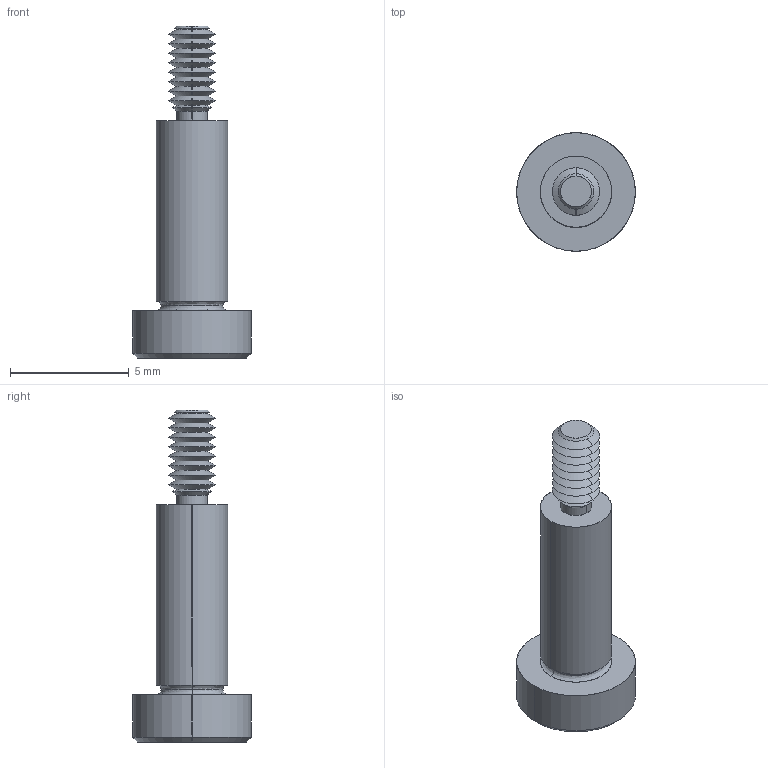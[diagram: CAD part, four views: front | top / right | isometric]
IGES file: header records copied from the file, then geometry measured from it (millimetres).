
Start section: SolidWorks IGES file using analytic representation for surfaces
Global section: file name: C:\Users\IanO\Documents\Temp Folder\GENERAL\SCREW REVISION\P0130_v2\P0130.T5_v2_20220106_IGES\P0130.030-008-T5.igs; native system: SolidWorks 2019; preprocessor: SolidWorks 2019; author: IanO; date: 220106.220018; units: millimetre
Bounding box: 5 x 5 x 14 mm (x, y, z)
Surface area: 191.7 mm2 (no closed solid volume)
Topology: 0 solids, 0 shells, 76 faces, 508 edges, 506 vertices
Faces by surface type: revolution 56, bspline 20
